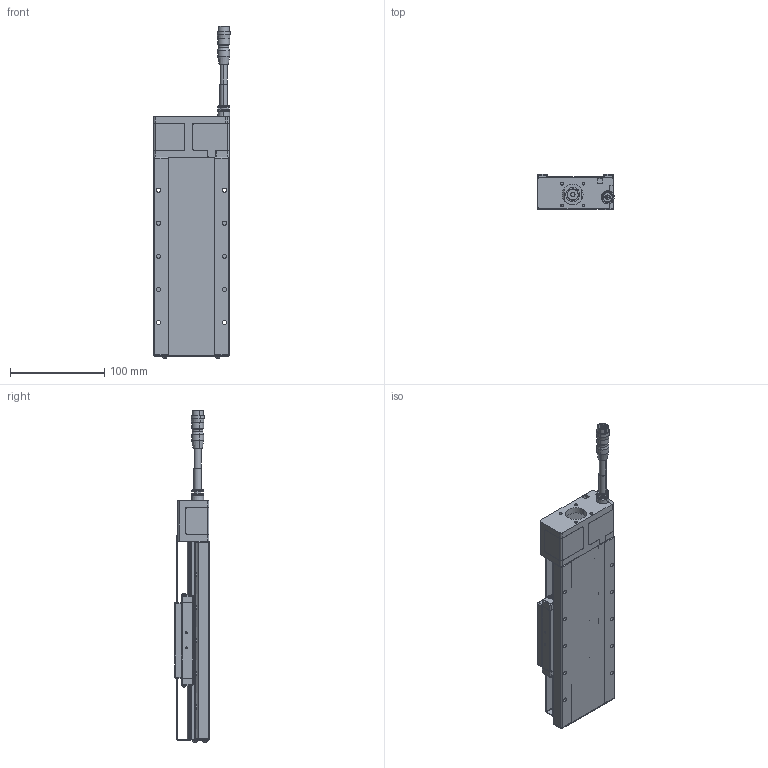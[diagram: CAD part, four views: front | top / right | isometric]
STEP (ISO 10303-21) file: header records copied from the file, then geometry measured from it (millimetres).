
FILE_DESCRIPTION (( 'STEP AP203' ), '1' );
FILE_NAME ('CXC80100-S2?N(µL°¨¹F).S', '2024-01-05T05:29:38', ( '' ), ( '' ), 'SwSTEP 2.0', 'SolidWorks 2019', '' );
FILE_SCHEMA (( 'CONFIG_CONTROL_DESIGN' ));
Length unit declared in the file: millimetre
Products named in the file (9): Group1^CXC80100-S2?N(28框無馬達)_defeature_GMT; HR10A-10J-12P_帶線示意; SC04B006_SCM435(化鎳); SG02B005_SCM435(化鎳); SD03B006_SD03B006-SCM435(化鎳); CXC80100-S2?N(無馬達); CXC80-102; Group2^CXC80100-S2?N(28框無馬達)_defeature_GMT; CXC80100-S2OPAN-303
Assembly tree (16 placements, depth 2):
  CXC80100-S2?N(無馬達)
    Group1^CXC80100-S2?N(28框無馬達)_defeature_GMT
    Group2^CXC80100-S2?N(28框無馬達)_defeature_GMT
    CXC80100-S2OPAN-303
    SD03B006_SD03B006-SCM435(化鎳)  x4
    CXC80-102  x2
    SC04B006_SCM435(化鎳)  x4
    SG02B005_SCM435(化鎳)  x2
    HR10A-10J-12P_帶線示意
Bounding box: 80.99 x 37 x 351.67 mm (x, y, z)
Volume: 89503.3 mm3; surface area: 163265.8 mm2
Topology: 32 solids, 35 shells, 3590 faces, 9031 edges, 5427 vertices
Faces by surface type: plane 1197, cylinder 1192, cone 544, torus 282, sphere 202, bspline 173
Entity records: 106951 total; most frequent: CARTESIAN_POINT 26045, DIRECTION 17720, ORIENTED_EDGE 16372, EDGE_CURVE 8186, AXIS2_PLACEMENT_3D 6939, VERTEX_POINT 5008, LINE 3842, VECTOR 3842
